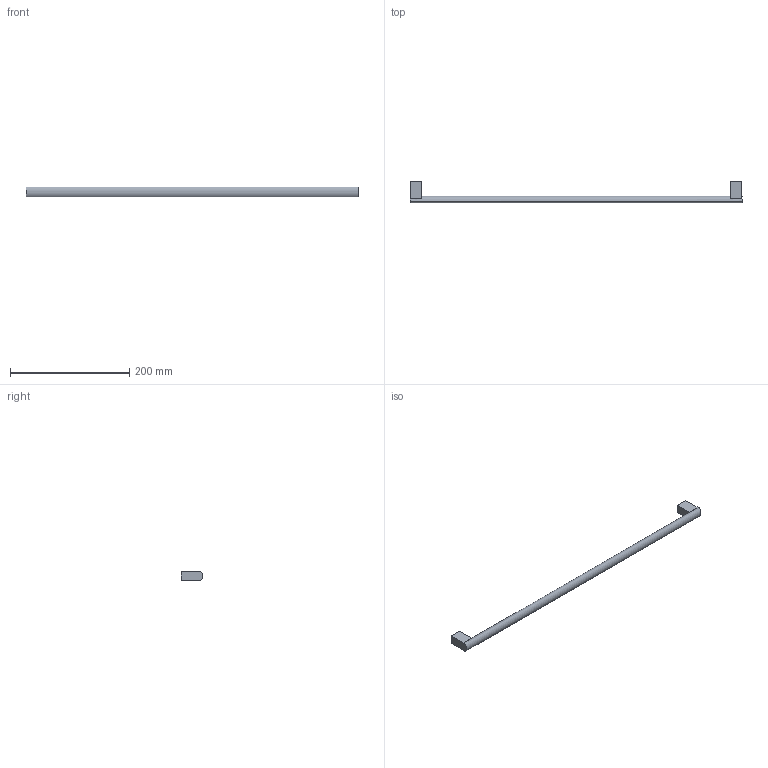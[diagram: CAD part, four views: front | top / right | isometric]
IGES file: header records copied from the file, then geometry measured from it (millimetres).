
Start section: Data from Parasolid IGES Translator 20.0.26, Copyright(c) 2006 Siemens P LM Software. All Rights Reserved.
Global section: file name: 115214.igs; native system: By Siemens PLM Incorporated; preprocessor: XPlus GENERIC/IGES 20.0.26; author: Noname; organization: Noname; date: 20230220.163851; units: millimetre
Bounding box: 556 x 35.96 x 16 mm (x, y, z)
Surface area: 28027.9 mm2 (no closed solid volume)
Topology: 0 solids, 0 shells, 22 faces, 102 edges, 100 vertices
Faces by surface type: extrusion 17, revolution 5
